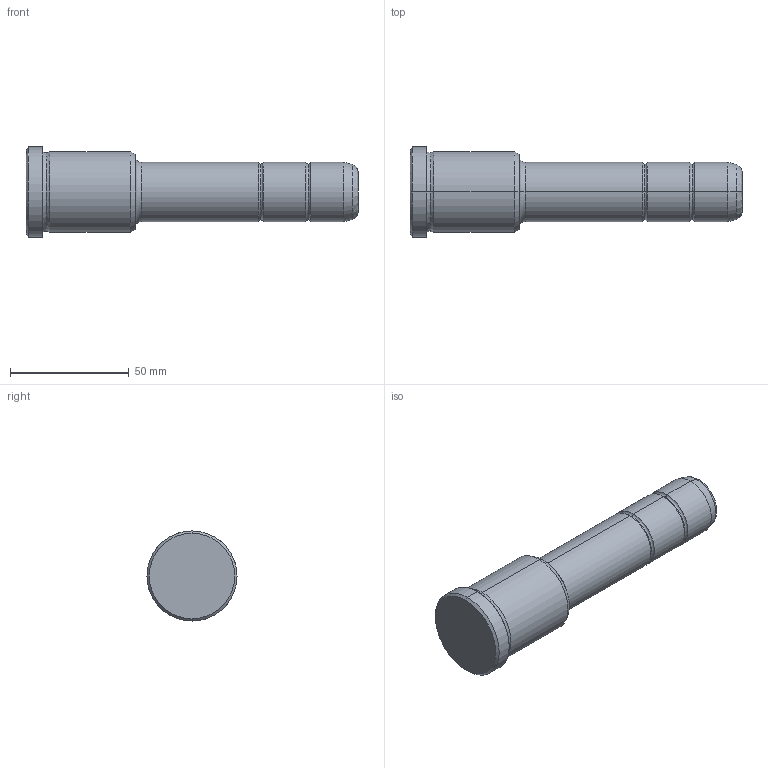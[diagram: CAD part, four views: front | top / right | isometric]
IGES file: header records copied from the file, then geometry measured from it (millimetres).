
Start section: START RECORD GO HERE.
Global section: file name: 351-25X46X140.igs; native system: DASSAULT SYSTEMES CATIA V5 R20 - www.3ds.com; preprocessor: CATIA Version 5 Release 20 ; author: Utente; organization: NB04-ASUS; date: 20210828.093652; units: millimetre
Bounding box: 140 x 38 x 38 mm (x, y, z)
Surface area: 14342.4 mm2 (no closed solid volume)
Topology: 0 solids, 0 shells, 36 faces, 204 edges, 204 vertices
Faces by surface type: revolution 32, plane 4
